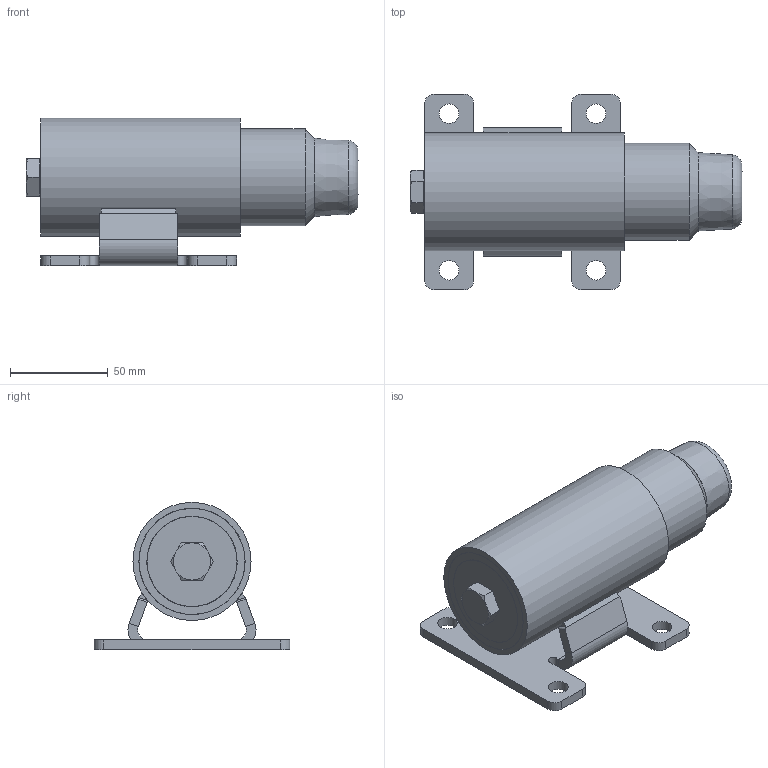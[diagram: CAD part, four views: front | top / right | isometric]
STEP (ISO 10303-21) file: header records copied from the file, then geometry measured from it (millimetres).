
FILE_DESCRIPTION(/* description */ ('Gefederter Puffer'),/* implementation_level */ '2;1');
FILE_NAME(/* name */ 'Q:\sge-ma\Produktmanagement-STB\STB\Workspace\TraceParts\Gefederter Puffer, schwere Ausführung\010336107.stp',/* time_stamp */ '2018-06-27T14:35:22+02:00',/* author */ ('avschreier'),/* organization */ (''),/* preprocessor_version */ 'ST-DEVELOPER v16.5',/* originating_system */ 'Autodesk Inventor 2017',/* authorisation */ '');
FILE_SCHEMA (('AUTOMOTIVE_DESIGN { 1 0 10303 214 3 1 1 }'));
Length unit declared in the file: millimetre
Products named in the file (10): 010336107; 010336107_1; 337000413; 337000411; 337000412; 337000415; 337000414; 577; DIN EN ISO 4017 - M12x100; DIN EN ISO 4017 - M8x20
Assembly tree (9 placements, depth 2):
  010336107
    010336107_1
    337000413
    337000411
    337000412
    337000415
    337000414
    577
    DIN EN ISO 4017 - M12x100
    DIN EN ISO 4017 - M8x20
Bounding box: 169.54 x 100 x 75.15 mm (x, y, z)
Volume: 289829.9 mm3; surface area: 105653.7 mm2
Topology: 11 solids, 11 shells, 145 faces, 319 edges, 198 vertices
Faces by surface type: plane 70, cylinder 40, cone 32, torus 2, bspline 1
Full cylindrical faces by diameter (mm): 6.647 x1, 7.323 x1, 8 x1, 10 x4, 10.106 x1, 11.053 x1, 11.4 x1, 12 x1, 13 x1, 17.2 x1, 36 x1, 49.5 x1, 50 x1, 50.3 x1, 60.3 x1
Entity records: 5433 total; most frequent: CARTESIAN_POINT 2106, DIRECTION 690, ORIENTED_EDGE 548, AXIS2_PLACEMENT_3D 281, EDGE_CURVE 274, EDGE_LOOP 205, VERTEX_POINT 193, FACE_OUTER_BOUND 145
